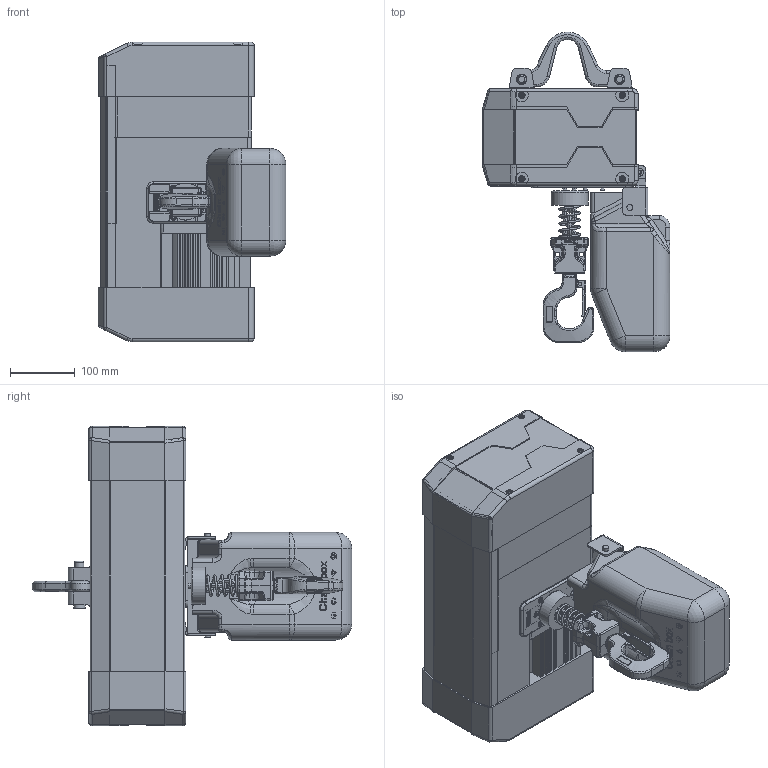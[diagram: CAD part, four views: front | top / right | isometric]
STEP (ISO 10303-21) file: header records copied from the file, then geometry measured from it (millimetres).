
FILE_DESCRIPTION(/* description */ ('CAx-IF Rec.Pracs.---Representation and Presentation of Product Manufacturing Information (PMI)---4.0---2014-10-13','CAx-IF Rec.Pracs.---3D Tessellated Geometry---0.4---2014-09-14','2;1'),/* implementation_level */ '2;1');
FILE_NAME(/* name */ 'YJ 0.5-01 固定式',/* time_stamp */ '2026-06-03T10:17:08+08:00',/* author */ (''),/* organization */ (''),/* preprocessor_version */ 'ST-DEVELOPER v16.7',/* originating_system */ $,/* authorisation */ $);
FILE_SCHEMA (('AP242_MANAGED_MODEL_BASED_3D_ENGINEERING_MIM_LF { 1 0 10303 442 20130219 1 4 }'));
Products named in the file (1): YJ 0.5-01 固定式
Bounding box: 289.59 x 492.89 x 462.2 mm (x, y, z)
Volume: 11393340.2 mm3; surface area: 1267741.1 mm2
Topology: 17 solids, 25 shells, 3184 faces, 7867 edges, 4798 vertices
Faces by surface type: plane 1293, cylinder 878, bspline 502, torus 268, cone 165, sphere 78
Full cylindrical faces by diameter (mm): 1.467 x1, 1.707 x1, 2.14 x1, 4 x2, 4.2 x4, 4.5 x4, 4.826 x4, 5 x2, 5.795 x4, 5.8 x2, 6 x2, 6.2 x3, 6.6 x8, 6.8 x4, 7 x2, 7.46 x1, 8.5 x4, 9 x5, 10 x4, 10.2 x8, 11 x1, 12.8 x4, 14 x2, 15.037 x4, 15.2 x2, 16.8 x2, 18 x2, 20 x1, 32 x1, 35 x1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
Entity records: 107353 total; most frequent: CARTESIAN_POINT 35758, ORIENTED_EDGE 15066, DIRECTION 14079, EDGE_CURVE 7533, AXIS2_PLACEMENT_3D 5030, VERTEX_POINT 4722, LINE 4035, VECTOR 4035
